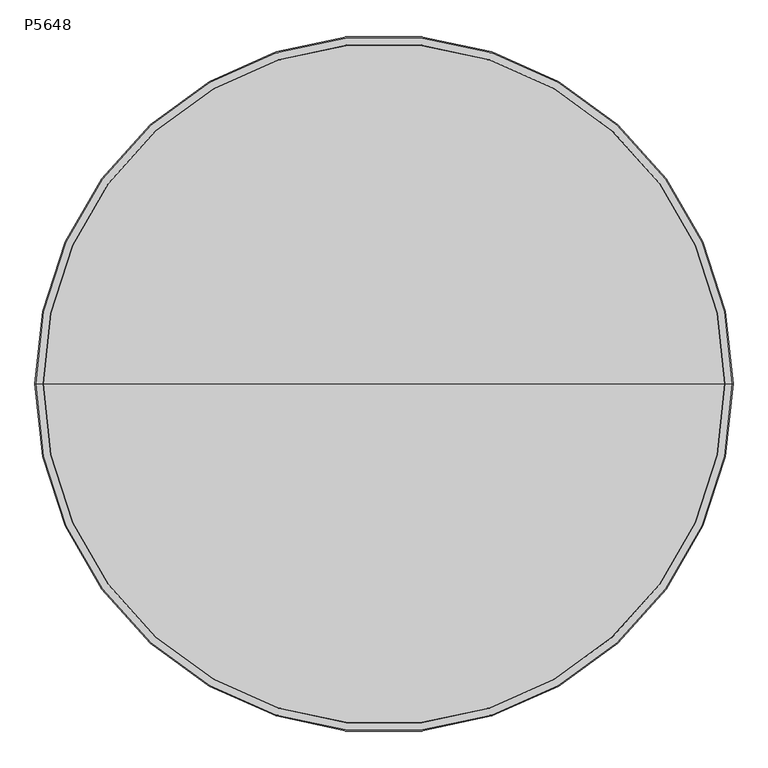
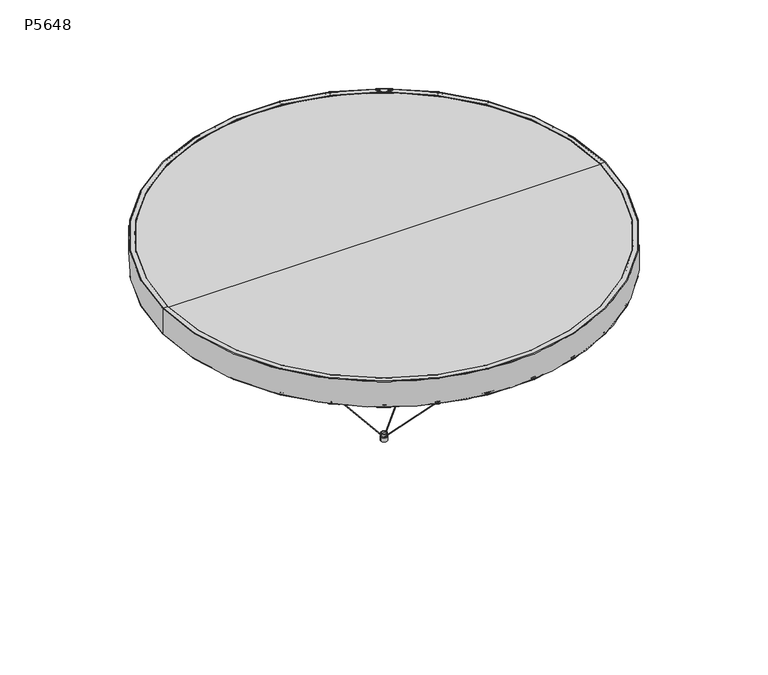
"""IFC4 building model written with IfcOpenShell, lengths in millimetres: light fixture geometry, Impact_Arch_Ltg-waf.r.3 : P5648."""

from ifc_helpers import new_model, si_unit, point, frame, origin, place, context, project, spatial, polyline, circle_curve, ellipse_curve, trimmed, outline, extrude, source, transform, mapped, element, save
from ifc_brep_helpers import plane_surface, cylinder_surface, revolved_surface, advanced_brep


def p5648_e3c1b2aa(model_context):
    return source(origin(), model_context, "Body", "SolidModel", [
        extrude(outline(polyline([(-430.2698441, 245.5711104), (-435.6312875, 248.6402797), (-434.9596024, 249.8136271), (-429.598159, 246.7444577), (-430.2698441, 245.5711104)])), frame((0.0, 0.0, 513.932063), z_axis=(0.0, 0.0, 1.0), x_axis=(1.0, 0.0, 0.0)), (0.0, 0.0, 1.0), 10.7885392),
        advanced_brep(
        [(-427.5104958, 244.7292687, 521.2315743), (-437.4962502, 250.4456345, 521.2315743), (-437.4962502, 250.4456345, 532.6496719), (-427.5104958, 244.7292687, 532.6496719), (-427.9473499, 244.9793467, 520.7282051), (-437.0593961, 250.1955564, 520.7282051), (-432.503373, 247.5874516, 520.7282051), (-432.503373, 247.5874516, 532.6496719)],
        [
            (0, 1, circle_curve(frame((-432.503373, 247.5874516, 521.2315743), z_axis=(0.0, 0.0, 1.0), x_axis=(-0.8678602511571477, 0.49680839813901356, 0.0)), 5.7530889)),
            (1, 2),
            (2, 3, circle_curve(frame((-432.503373, 247.5874516, 532.6496719), z_axis=(0.0, 0.0, -1.0), x_axis=(-0.8678602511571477, 0.49680839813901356, 0.0)), 5.7530889)),
            (3, 0),
            (1, 0, circle_curve(frame((-432.503373, 247.5874516, 521.2315743), z_axis=(0.0, 0.0, 1.0), x_axis=(-0.8678602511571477, 0.49680839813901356, 0.0)), 5.7530889)),
            (3, 2, circle_curve(frame((-432.503373, 247.5874516, 532.6496719), z_axis=(0.0, 0.0, -1.0), x_axis=(-0.8678602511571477, 0.49680839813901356, 0.0)), 5.7530889)),
            (4, 5, circle_curve(frame((-432.503373, 247.5874516, 520.7282051), z_axis=(0.0, 0.0, 1.0), x_axis=(-0.8678602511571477, 0.49680839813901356, 0.0)), 5.2497197)),
            (5, 1, circle_curve(frame((-437.0593961, 250.1955564, 521.2315743), z_axis=(0.49680839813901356, 0.8678602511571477, 0.0), x_axis=(0.8678602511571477, -0.49680839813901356, 0.0)), 0.5033692)),
            (0, 4, circle_curve(frame((-427.9473499, 244.9793467, 521.2315743), z_axis=(0.49680839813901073, 0.8678602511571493, 0.0), x_axis=(-0.8678602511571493, 0.49680839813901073, 0.0)), 0.5033692)),
            (5, 4, circle_curve(frame((-432.503373, 247.5874516, 520.7282051), z_axis=(0.0, 0.0, 1.0), x_axis=(-0.8678602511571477, 0.49680839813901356, 0.0)), 5.2497197)),
            (6, 5),
            (4, 6),
            (2, 7),
            (7, 3),
        ],
        [
            cylinder_surface(frame((-432.503373, 247.5874516, 534.5064644), z_axis=(0.0, 0.0, -1.0), x_axis=(-0.8678602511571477, 0.49680839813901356, 0.0)), 5.7530889),
            revolved_surface(trimmed(ellipse_curve(frame((-437.0593961, 250.1955564, 521.2315743), z_axis=(-0.49680839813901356, -0.8678602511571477, 0.0), x_axis=(0.8678602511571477, -0.49680839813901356, 0.0)), 0.5033692, 0.5033692), [point((-437.4962502, 250.4456345, 521.2315743))], [point((-437.0593961, 250.1955564, 520.7282051))], True, "CARTESIAN"), (-432.503373, 247.5874516, 534.5064644), (0.0, 0.0, -1.0)),
            plane_surface(frame((-432.503373, 247.5874516, 520.7282051), z_axis=(0.0, 0.0, -1.0), x_axis=(-0.8678602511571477, 0.49680839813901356, 0.0))),
            plane_surface(frame((-432.503373, 247.5874516, 532.6496719), z_axis=(0.0, 0.0, 1.0), x_axis=(-0.8678602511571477, 0.49680839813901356, 0.0))),
        ],
        [
            (0, [[1, 2, 3, 4]]),
            (0, [[5, -4, 6, -2]]),
            (1, [[7, 8, -1, 9]]),
            (1, [[10, -9, -5, -8]]),
            (2, [[11, -7, 12]]),
            (2, [[-12, -10, -11]]),
            (3, [[-3, 13, 14]]),
            (3, [[-6, -14, -13]]),
        ],
    ),
        advanced_brep(
        [(-0.4890693, 0.2799687, 14.2374638), (0.4890693, -0.2799687, 15.3555205), (0.0, 0.0, 14.7964922), (-410.67593, 235.0922867, 490.689032), (-409.6978263, 234.5323691, 491.8070488), (-410.1868781, 234.8123279, 491.2480404)],
        [
            (0, 1, circle_curve(frame((0.0, 0.0, 14.7964922), z_axis=(0.6112015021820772, -0.3498835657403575, -0.7099395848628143), x_axis=(0.6161283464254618, -0.35270394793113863, 0.7042625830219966)), 0.7937783)),
            (1, 2),
            (2, 0),
            (1, 0, circle_curve(frame((0.0, 0.0, 14.7964922), z_axis=(0.6112015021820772, -0.3498835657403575, -0.7099395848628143), x_axis=(0.6161283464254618, -0.35270394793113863, 0.7042625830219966)), 0.7937783)),
            (3, 4, circle_curve(frame((-410.1868781, 234.8123279, 491.2480404), z_axis=(0.6112015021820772, -0.3498835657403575, -0.7099395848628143), x_axis=(0.6161283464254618, -0.35270394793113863, 0.7042625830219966)), 0.79375)),
            (4, 1),
            (0, 3),
            (4, 3, circle_curve(frame((-410.1868781, 234.8123279, 491.2480404), z_axis=(0.6112015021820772, -0.3498835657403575, -0.7099395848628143), x_axis=(0.6161283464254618, -0.35270394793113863, 0.7042625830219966)), 0.79375)),
            (5, 4),
            (3, 5),
        ],
        [
            plane_surface(frame((0.0, 0.0, 14.7964922), z_axis=(0.6112015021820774, -0.34988356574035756, -0.7099395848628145), x_axis=(0.6161283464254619, -0.3527039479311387, 0.7042625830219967))),
            cylinder_surface(frame((-383.1067192, 219.3102348, 459.7931491), z_axis=(-0.6112015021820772, 0.3498835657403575, 0.7099395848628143), x_axis=(0.6161283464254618, -0.35270394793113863, 0.7042625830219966)), 0.79375),
            plane_surface(frame((-410.1868781, 234.8123279, 491.2480404), z_axis=(-0.6112015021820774, 0.34988356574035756, 0.7099395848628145), x_axis=(0.6161283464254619, -0.3527039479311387, 0.7042625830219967))),
        ],
        [
            (0, [[1, 2, 3]]),
            (0, [[4, -3, -2]]),
            (1, [[5, 6, -1, 7]]),
            (1, [[8, -7, -4, -6]]),
            (2, [[9, -5, 10]]),
            (2, [[-10, -8, -9]]),
        ],
    ),
        advanced_brep(
        [(-411.2872449, 235.4422351, 489.9902714), (-409.0865114, 234.1824207, 492.5058094), (-410.1868781, 234.8123279, 491.2480404), (-416.1386568, 238.2194359, 495.6254169), (-413.9379233, 236.9596215, 498.1409548), (-415.0382901, 237.5895287, 496.8831858)],
        [
            (0, 1, circle_curve(frame((-410.1868781, 234.8123279, 491.2480404), z_axis=(0.6112015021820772, -0.3498835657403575, -0.7099395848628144), x_axis=(0.6161283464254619, -0.3527039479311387, 0.7042625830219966)), 1.7859375)),
            (1, 2),
            (2, 0),
            (1, 0, circle_curve(frame((-410.1868781, 234.8123279, 491.2480404), z_axis=(0.6112015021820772, -0.3498835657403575, -0.7099395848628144), x_axis=(0.6161283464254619, -0.3527039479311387, 0.7042625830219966)), 1.7859375)),
            (3, 4, circle_curve(frame((-415.0382901, 237.5895287, 496.8831858), z_axis=(0.6112015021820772, -0.3498835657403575, -0.7099395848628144), x_axis=(0.6161283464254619, -0.3527039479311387, 0.7042625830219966)), 1.7859375)),
            (4, 1),
            (0, 3),
            (4, 3, circle_curve(frame((-415.0382901, 237.5895287, 496.8831858), z_axis=(0.6112015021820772, -0.3498835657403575, -0.7099395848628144), x_axis=(0.6161283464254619, -0.3527039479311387, 0.7042625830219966)), 1.7859375)),
            (5, 4),
            (3, 5),
        ],
        [
            plane_surface(frame((-410.1868781, 234.8123279, 491.2480404), z_axis=(0.6112015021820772, -0.3498835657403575, -0.7099395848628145), x_axis=(0.6161283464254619, -0.3527039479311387, 0.7042625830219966))),
            cylinder_surface(frame((-365.7518489, 209.3754034, 439.6346427), z_axis=(-0.6112015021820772, 0.3498835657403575, 0.7099395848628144), x_axis=(0.6161283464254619, -0.3527039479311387, 0.7042625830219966)), 1.7859375),
            plane_surface(frame((-415.0382901, 237.5895287, 496.8831858), z_axis=(-0.6112015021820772, 0.3498835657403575, 0.7099395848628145), x_axis=(0.6161283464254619, -0.3527039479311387, 0.7042625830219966))),
        ],
        [
            (0, [[1, 2, 3]]),
            (0, [[4, -3, -2]]),
            (1, [[5, 6, -1, 7]]),
            (1, [[8, -7, -4, -6]]),
            (2, [[9, -5, 10]]),
            (2, [[-10, -8, -9]]),
        ],
    ),
        advanced_brep(
        [(-418.2171272, 239.4092606, 493.2496311), (-411.8594529, 235.7697968, 500.5167406), (-415.0382901, 237.5895287, 496.8831858), (-435.6822102, 249.4071835, 513.5361547), (-429.3245358, 245.7677197, 520.8032643), (-432.503373, 247.5874516, 517.1697095)],
        [
            (0, 1, circle_curve(frame((-415.0382901, 237.5895287, 496.8831858), z_axis=(0.6112015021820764, -0.349883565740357, -0.7099395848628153), x_axis=(0.6161283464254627, -0.35270394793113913, 0.7042625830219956)), 5.159375)),
            (1, 2),
            (2, 0),
            (1, 0, circle_curve(frame((-415.0382901, 237.5895287, 496.8831858), z_axis=(0.6112015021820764, -0.349883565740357, -0.7099395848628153), x_axis=(0.6161283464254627, -0.35270394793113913, 0.7042625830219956)), 5.159375)),
            (3, 4, circle_curve(frame((-432.503373, 247.5874516, 517.1697095), z_axis=(0.6112015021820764, -0.349883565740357, -0.7099395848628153), x_axis=(0.6161283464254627, -0.35270394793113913, 0.7042625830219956)), 5.159375)),
            (4, 1),
            (0, 3),
            (4, 3, circle_curve(frame((-432.503373, 247.5874516, 517.1697095), z_axis=(0.6112015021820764, -0.349883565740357, -0.7099395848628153), x_axis=(0.6161283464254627, -0.35270394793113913, 0.7042625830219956)), 5.159375)),
            (5, 4),
            (3, 5),
        ],
        [
            plane_surface(frame((-415.0382901, 237.5895287, 496.8831858), z_axis=(0.6112015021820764, -0.349883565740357, -0.7099395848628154), x_axis=(0.6161283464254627, -0.35270394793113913, 0.7042625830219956))),
            cylinder_surface(frame((-402.2645397, 230.2771688, 482.0458678), z_axis=(-0.6112015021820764, 0.349883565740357, 0.7099395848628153), x_axis=(0.6161283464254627, -0.35270394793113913, 0.7042625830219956)), 5.159375),
            plane_surface(frame((-432.503373, 247.5874516, 517.1697095), z_axis=(-0.6112015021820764, 0.349883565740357, 0.7099395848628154), x_axis=(0.6161283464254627, -0.35270394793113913, 0.7042625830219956))),
        ],
        [
            (0, [[1, 2, 3]]),
            (0, [[4, -3, -2]]),
            (1, [[5, 6, -1, 7]]),
            (1, [[8, -7, -4, -6]]),
            (2, [[9, -5, 10]]),
            (2, [[-10, -8, -9]]),
        ],
    ),
        extrude(outline(polyline([(426.8830775, 251.412305), (432.2102977, 254.5404995), (432.8949004, 253.3746418), (427.5676802, 250.2464474), (426.8830775, 251.412305)])), frame((0.0, 0.0, 513.932063), z_axis=(0.0, 0.0, 1.0), x_axis=(1.0, 0.0, 0.0)), (0.0, 0.0, 1.0), 10.7885392),
        advanced_brep(
        [(424.7816092, 249.4358103, 521.2315743), (434.7036225, 255.2621111, 521.2315743), (434.7036225, 255.2621111, 532.6496719), (424.7816092, 249.4358103, 532.6496719), (425.2156748, 249.6906977, 520.7282051), (434.2695569, 255.0072236, 520.7282051), (429.7426158, 252.3489607, 520.7282051), (429.7426158, 252.3489607, 532.6496719)],
        [
            (0, 1, circle_curve(frame((429.7426158, 252.3489607, 521.2315743), z_axis=(0.0, 0.0, 1.0), x_axis=(0.862320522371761, 0.5063628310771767, 0.0)), 5.7530889)),
            (1, 2),
            (2, 3, circle_curve(frame((429.7426158, 252.3489607, 532.6496719), z_axis=(0.0, 0.0, -1.0), x_axis=(0.862320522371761, 0.5063628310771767, 0.0)), 5.7530889)),
            (3, 0),
            (1, 0, circle_curve(frame((429.7426158, 252.3489607, 521.2315743), z_axis=(0.0, 0.0, 1.0), x_axis=(0.862320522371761, 0.5063628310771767, 0.0)), 5.7530889)),
            (3, 2, circle_curve(frame((429.7426158, 252.3489607, 532.6496719), z_axis=(0.0, 0.0, -1.0), x_axis=(0.862320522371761, 0.5063628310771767, 0.0)), 5.7530889)),
            (4, 5, circle_curve(frame((429.7426158, 252.3489607, 520.7282051), z_axis=(0.0, 0.0, 1.0), x_axis=(0.862320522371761, 0.5063628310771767, 0.0)), 5.2497197)),
            (5, 1, circle_curve(frame((434.2695569, 255.0072236, 521.2315743), z_axis=(0.5063628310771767, -0.862320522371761, 0.0), x_axis=(-0.862320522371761, -0.5063628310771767, 0.0)), 0.5033692)),
            (0, 4, circle_curve(frame((425.2156748, 249.6906977, 521.2315743), z_axis=(0.5063628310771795, -0.8623205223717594, 0.0), x_axis=(0.8623205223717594, 0.5063628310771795, 0.0)), 0.5033692)),
            (5, 4, circle_curve(frame((429.7426158, 252.3489607, 520.7282051), z_axis=(0.0, 0.0, 1.0), x_axis=(0.862320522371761, 0.5063628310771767, 0.0)), 5.2497197)),
            (6, 5),
            (4, 6),
            (2, 7),
            (7, 3),
        ],
        [
            cylinder_surface(frame((429.7426158, 252.3489607, 534.5064644), z_axis=(0.0, 0.0, -1.0), x_axis=(0.862320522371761, 0.5063628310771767, 0.0)), 5.7530889),
            revolved_surface(trimmed(ellipse_curve(frame((434.2695569, 255.0072236, 521.2315743), z_axis=(-0.5063628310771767, 0.862320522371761, 0.0), x_axis=(-0.862320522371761, -0.5063628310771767, 0.0)), 0.5033692, 0.5033692), [point((434.7036225, 255.2621111, 521.2315743))], [point((434.2695569, 255.0072236, 520.7282051))], True, "CARTESIAN"), (429.7426158, 252.3489607, 534.5064644), (0.0, 0.0, -1.0)),
            plane_surface(frame((429.7426158, 252.3489607, 520.7282051), z_axis=(0.0, 0.0, -1.0000000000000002), x_axis=(0.862320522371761, 0.5063628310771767, 0.0))),
            plane_surface(frame((429.7426158, 252.3489607, 532.6496719), z_axis=(0.0, 0.0, 1.0000000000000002), x_axis=(0.862320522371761, 0.5063628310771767, 0.0))),
        ],
        [
            (0, [[1, 2, 3, 4]]),
            (0, [[5, -4, 6, -2]]),
            (1, [[7, 8, -1, 9]]),
            (1, [[10, -9, -5, -8]]),
            (2, [[11, -7, 12]]),
            (2, [[-12, -10, -11]]),
            (3, [[-3, 13, 14]]),
            (3, [[-6, -14, -13]]),
        ],
    ),
        advanced_brep(
        [(0.4859475, 0.285353, 14.2374638), (-0.4859475, -0.285353, 15.3555205), (0.0, 0.0, 14.7964922), (408.0545019, 239.6134934, 490.689032), (407.0826416, 239.0428078, 491.8070488), (407.5685717, 239.3281506, 491.2480404)],
        [
            (0, 1, circle_curve(frame((0.0, 0.0, 14.7964922), z_axis=(-0.607300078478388, -0.3566123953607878, -0.7099395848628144), x_axis=(-0.6121954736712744, -0.35948701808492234, 0.7042625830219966)), 0.7937783)),
            (1, 2),
            (2, 0),
            (1, 0, circle_curve(frame((0.0, 0.0, 14.7964922), z_axis=(-0.607300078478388, -0.3566123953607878, -0.7099395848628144), x_axis=(-0.6121954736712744, -0.35948701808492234, 0.7042625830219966)), 0.7937783)),
            (3, 4, circle_curve(frame((407.5685717, 239.3281506, 491.2480404), z_axis=(-0.607300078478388, -0.3566123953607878, -0.7099395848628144), x_axis=(-0.6121954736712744, -0.35948701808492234, 0.7042625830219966)), 0.79375)),
            (4, 1),
            (0, 3),
            (4, 3, circle_curve(frame((407.5685717, 239.3281506, 491.2480404), z_axis=(-0.607300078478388, -0.3566123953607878, -0.7099395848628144), x_axis=(-0.6121954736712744, -0.35948701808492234, 0.7042625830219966)), 0.79375)),
            (5, 4),
            (3, 5),
        ],
        [
            plane_surface(frame((0.0, 0.0, 14.7964922), z_axis=(-0.607300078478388, -0.3566123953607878, -0.7099395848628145), x_axis=(-0.6121954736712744, -0.3594870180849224, 0.7042625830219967))),
            cylinder_surface(frame((380.6612709, 223.5279271, 459.7931491), z_axis=(0.6073000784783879, 0.35661239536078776, 0.7099395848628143), x_axis=(-0.6121954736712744, -0.35948701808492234, 0.7042625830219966)), 0.79375),
            plane_surface(frame((407.5685717, 239.3281506, 491.2480404), z_axis=(0.607300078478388, 0.3566123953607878, 0.7099395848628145), x_axis=(-0.6121954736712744, -0.3594870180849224, 0.7042625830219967))),
        ],
        [
            (0, [[1, 2, 3]]),
            (0, [[4, -3, -2]]),
            (1, [[5, 6, -1, 7]]),
            (1, [[8, -7, -4, -6]]),
            (2, [[9, -5, 10]]),
            (2, [[-10, -8, -9]]),
        ],
    ),
        advanced_brep(
        [(408.6619146, 239.9701719, 489.9902714), (406.4752289, 238.6861292, 492.5058094), (407.5685717, 239.3281506, 491.2480404), (413.482359, 242.8007828, 495.6254169), (411.2956732, 241.5167401, 498.1409548), (412.3890161, 242.1587615, 496.8831858)],
        [
            (0, 1, circle_curve(frame((407.5685717, 239.3281506, 491.2480404), z_axis=(-0.6073000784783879, -0.35661239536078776, -0.7099395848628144), x_axis=(-0.6121954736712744, -0.3594870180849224, 0.7042625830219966)), 1.7859375)),
            (1, 2),
            (2, 0),
            (1, 0, circle_curve(frame((407.5685717, 239.3281506, 491.2480404), z_axis=(-0.6073000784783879, -0.35661239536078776, -0.7099395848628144), x_axis=(-0.6121954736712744, -0.3594870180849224, 0.7042625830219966)), 1.7859375)),
            (3, 4, circle_curve(frame((412.3890161, 242.1587615, 496.8831858), z_axis=(-0.6073000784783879, -0.35661239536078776, -0.7099395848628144), x_axis=(-0.6121954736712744, -0.3594870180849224, 0.7042625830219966)), 1.7859375)),
            (4, 1),
            (0, 3),
            (4, 3, circle_curve(frame((412.3890161, 242.1587615, 496.8831858), z_axis=(-0.6073000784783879, -0.35661239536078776, -0.7099395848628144), x_axis=(-0.6121954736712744, -0.3594870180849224, 0.7042625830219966)), 1.7859375)),
            (5, 4),
            (3, 5),
        ],
        [
            plane_surface(frame((407.5685717, 239.3281506, 491.2480404), z_axis=(-0.607300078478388, -0.3566123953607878, -0.7099395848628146), x_axis=(-0.6121954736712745, -0.35948701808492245, 0.7042625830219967))),
            cylinder_surface(frame((363.4171803, 213.4020327, 439.6346427), z_axis=(0.6073000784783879, 0.35661239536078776, 0.7099395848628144), x_axis=(-0.6121954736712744, -0.3594870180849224, 0.7042625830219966)), 1.7859375),
            plane_surface(frame((412.3890161, 242.1587615, 496.8831858), z_axis=(0.607300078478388, 0.3566123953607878, 0.7099395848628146), x_axis=(-0.6121954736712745, -0.35948701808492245, 0.7042625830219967))),
        ],
        [
            (0, [[1, 2, 3]]),
            (0, [[4, -3, -2]]),
            (1, [[5, 6, -1, 7]]),
            (1, [[8, -7, -4, -6]]),
            (2, [[9, -5, 10]]),
            (2, [[-10, -8, -9]]),
        ],
    ),
        advanced_brep(
        [(415.5475621, 244.0134898, 493.2496311), (409.2304701, 240.3040331, 500.5167406), (412.3890161, 242.1587615, 496.8831858), (432.9011619, 254.203689, 513.5361547), (426.5840698, 250.4942323, 520.8032643), (429.7426158, 252.3489607, 517.1697095)],
        [
            (0, 1, circle_curve(frame((412.3890161, 242.1587615, 496.8831858), z_axis=(-0.607300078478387, -0.35661239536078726, -0.7099395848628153), x_axis=(-0.6121954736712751, -0.3594870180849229, 0.7042625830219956)), 5.159375)),
            (1, 2),
            (2, 0),
            (1, 0, circle_curve(frame((412.3890161, 242.1587615, 496.8831858), z_axis=(-0.607300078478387, -0.35661239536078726, -0.7099395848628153), x_axis=(-0.6121954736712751, -0.3594870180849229, 0.7042625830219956)), 5.159375)),
            (3, 4, circle_curve(frame((429.7426158, 252.3489607, 517.1697095), z_axis=(-0.607300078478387, -0.35661239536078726, -0.7099395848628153), x_axis=(-0.6121954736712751, -0.3594870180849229, 0.7042625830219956)), 5.159375)),
            (4, 1),
            (0, 3),
            (4, 3, circle_curve(frame((429.7426158, 252.3489607, 517.1697095), z_axis=(-0.607300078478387, -0.35661239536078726, -0.7099395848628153), x_axis=(-0.6121954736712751, -0.3594870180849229, 0.7042625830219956)), 5.159375)),
            (5, 4),
            (3, 5),
        ],
        [
            plane_surface(frame((412.3890161, 242.1587615, 496.8831858), z_axis=(-0.6073000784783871, -0.3566123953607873, -0.7099395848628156), x_axis=(-0.6121954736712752, -0.35948701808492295, 0.7042625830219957))),
            cylinder_surface(frame((399.6968032, 234.7057731, 482.0458678), z_axis=(0.607300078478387, 0.35661239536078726, 0.7099395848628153), x_axis=(-0.6121954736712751, -0.3594870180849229, 0.7042625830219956)), 5.159375),
            plane_surface(frame((429.7426158, 252.3489607, 517.1697095), z_axis=(0.6073000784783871, 0.3566123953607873, 0.7099395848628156), x_axis=(-0.6121954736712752, -0.35948701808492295, 0.7042625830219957))),
        ],
        [
            (0, [[1, 2, 3]]),
            (0, [[4, -3, -2]]),
            (1, [[5, 6, -1, 7]]),
            (1, [[8, -7, -4, -6]]),
            (2, [[9, -5, 10]]),
            (2, [[-10, -8, -9]]),
        ],
    ),
        extrude(outline(polyline([(0.6402665, -495.4158849), (0.6402665, -501.5936576), (-0.7117338, -501.5936576), (-0.7117338, -495.4158849), (0.6402665, -495.4158849)])), frame((0.0, 0.0, 513.932063), z_axis=(0.0, 0.0, 1.0), x_axis=(1.0, 0.0, 0.0)), (0.0, 0.0, 1.0), 10.7885392),
        advanced_brep(
        [(0.0, -492.6029222, 521.2315743), (0.0, -504.1091, 521.2315743), (0.0, -504.1091, 532.6496719), (0.0, -492.6029222, 532.6496719), (0.0, -493.1062914, 520.7282051), (0.0, -503.6057309, 520.7282051), (0.0, -498.3560111, 520.7282051), (0.0, -498.3560111, 532.6496719)],
        [
            (0, 1, circle_curve(frame((0.0, -498.3560111, 521.2315743), z_axis=(0.0, 0.0, 1.0), x_axis=(0.0, -1.0, 0.0)), 5.7530889)),
            (1, 2),
            (2, 3, circle_curve(frame((0.0, -498.3560111, 532.6496719), z_axis=(0.0, 0.0, -1.0), x_axis=(0.0, -1.0, 0.0)), 5.7530889)),
            (3, 0),
            (1, 0, circle_curve(frame((0.0, -498.3560111, 521.2315743), z_axis=(0.0, 0.0, 1.0), x_axis=(0.0, -1.0, 0.0)), 5.7530889)),
            (3, 2, circle_curve(frame((0.0, -498.3560111, 532.6496719), z_axis=(0.0, 0.0, -1.0), x_axis=(0.0, -1.0, 0.0)), 5.7530889)),
            (4, 5, circle_curve(frame((0.0, -498.3560111, 520.7282051), z_axis=(0.0, 0.0, 1.0), x_axis=(0.0, -1.0, 0.0)), 5.2497197)),
            (5, 1, circle_curve(frame((0.0, -503.6057309, 521.2315743), z_axis=(-1.0, 0.0, 0.0), x_axis=(0.0, 1.0, 0.0)), 0.5033692)),
            (0, 4, circle_curve(frame((0.0, -493.1062914, 521.2315743), z_axis=(-1.0, 0.0, 0.0), x_axis=(0.0, -1.0, 0.0)), 0.5033692)),
            (5, 4, circle_curve(frame((0.0, -498.3560111, 520.7282051), z_axis=(0.0, 0.0, 1.0), x_axis=(0.0, -1.0, 0.0)), 5.2497197)),
            (6, 5),
            (4, 6),
            (2, 7),
            (7, 3),
        ],
        [
            cylinder_surface(frame((0.0, -498.3560111, 534.5064644), z_axis=(0.0, 0.0, -1.0), x_axis=(0.0, -1.0, 0.0)), 5.7530889),
            revolved_surface(trimmed(ellipse_curve(frame((0.0, -503.6057309, 521.2315743), z_axis=(1.0, 0.0, 0.0), x_axis=(0.0, 1.0, 0.0)), 0.5033692, 0.5033692), [point((0.0, -504.1091, 521.2315743))], [point((0.0, -503.6057309, 520.7282051))], True, "CARTESIAN"), (0.0, -498.3560111, 534.5064644), (0.0, 0.0, -1.0)),
            plane_surface(frame((0.0, -498.3560111, 520.7282051), z_axis=(0.0, 0.0, -1.0), x_axis=(0.0, -1.0, 0.0))),
            plane_surface(frame((0.0, -498.3560111, 532.6496719), z_axis=(0.0, 0.0, 1.0), x_axis=(0.0, -1.0, 0.0))),
        ],
        [
            (0, [[1, 2, 3, 4]]),
            (0, [[5, -4, 6, -2]]),
            (1, [[7, 8, -1, 9]]),
            (1, [[10, -9, -5, -8]]),
            (2, [[11, -7, 12]]),
            (2, [[-12, -10, -11]]),
            (3, [[-3, 13, 14]]),
            (3, [[-6, -14, -13]]),
        ],
    ),
        advanced_brep(
        [(0.0, -0.5635346, 14.2374638), (0.0, 0.5635346, 15.3555205), (0.0, 0.0, 14.7964922), (0.0, -473.2051381, 490.689032), (0.0, -472.078109, 491.8070488), (0.0, -472.6416236, 491.2480404)],
        [
            (0, 1, circle_curve(frame((0.0, 0.0, 14.7964922), z_axis=(0.0, 0.7042625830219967, -0.7099395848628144), x_axis=(0.0, 0.7099395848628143, 0.7042625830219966)), 0.7937783)),
            (1, 2),
            (2, 0),
            (1, 0, circle_curve(frame((0.0, 0.0, 14.7964922), z_axis=(0.0, 0.7042625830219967, -0.7099395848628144), x_axis=(0.0, 0.7099395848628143, 0.7042625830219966)), 0.7937783)),
            (3, 4, circle_curve(frame((0.0, -472.6416236, 491.2480404), z_axis=(0.0, 0.7042625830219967, -0.7099395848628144), x_axis=(0.0, 0.7099395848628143, 0.7042625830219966)), 0.79375)),
            (4, 1),
            (0, 3),
            (4, 3, circle_curve(frame((0.0, -472.6416236, 491.2480404), z_axis=(0.0, 0.7042625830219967, -0.7099395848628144), x_axis=(0.0, 0.7099395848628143, 0.7042625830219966)), 0.79375)),
            (5, 4),
            (3, 5),
        ],
        [
            plane_surface(frame((0.0, 0.0, 14.7964922), z_axis=(0.0, 0.7042625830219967, -0.7099395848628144), x_axis=(0.0, 0.7099395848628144, 0.7042625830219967))),
            cylinder_surface(frame((0.0, -441.43826, 459.7931491), z_axis=(0.0, -0.7042625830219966, 0.7099395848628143), x_axis=(0.0, 0.7099395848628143, 0.7042625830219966)), 0.79375),
            plane_surface(frame((0.0, -472.6416236, 491.2480404), z_axis=(0.0, -0.7042625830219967, 0.7099395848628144), x_axis=(0.0, 0.7099395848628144, 0.7042625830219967))),
        ],
        [
            (0, [[1, 2, 3]]),
            (0, [[4, -3, -2]]),
            (1, [[5, 6, -1, 7]]),
            (1, [[8, -7, -4, -6]]),
            (2, [[9, -5, 10]]),
            (2, [[-10, -8, -9]]),
        ],
    ),
        advanced_brep(
        [(0.0, -473.9095313, 489.9902714), (0.0, -471.3737158, 492.5058094), (0.0, -472.6416236, 491.2480404), (0.0, -479.4996155, 495.6254169), (0.0, -476.9638001, 498.1409548), (0.0, -478.2317078, 496.8831858)],
        [
            (0, 1, circle_curve(frame((0.0, -472.6416236, 491.2480404), z_axis=(0.0, 0.7042625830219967, -0.7099395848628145), x_axis=(0.0, 0.7099395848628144, 0.7042625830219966)), 1.7859375)),
            (1, 2),
            (2, 0),
            (1, 0, circle_curve(frame((0.0, -472.6416236, 491.2480404), z_axis=(0.0, 0.7042625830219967, -0.7099395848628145), x_axis=(0.0, 0.7099395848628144, 0.7042625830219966)), 1.7859375)),
            (3, 4, circle_curve(frame((0.0, -478.2317078, 496.8831858), z_axis=(0.0, 0.7042625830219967, -0.7099395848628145), x_axis=(0.0, 0.7099395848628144, 0.7042625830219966)), 1.7859375)),
            (4, 1),
            (0, 3),
            (4, 3, circle_curve(frame((0.0, -478.2317078, 496.8831858), z_axis=(0.0, 0.7042625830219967, -0.7099395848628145), x_axis=(0.0, 0.7099395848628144, 0.7042625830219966)), 1.7859375)),
            (5, 4),
            (3, 5),
        ],
        [
            plane_surface(frame((0.0, -472.6416236, 491.2480404), z_axis=(0.0, 0.7042625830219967, -0.7099395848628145), x_axis=(0.0, 0.7099395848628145, 0.7042625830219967))),
            cylinder_surface(frame((0.0, -421.4409502, 439.6346427), z_axis=(0.0, -0.7042625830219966, 0.7099395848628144), x_axis=(0.0, 0.7099395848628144, 0.7042625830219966)), 1.7859375),
            plane_surface(frame((0.0, -478.2317078, 496.8831858), z_axis=(0.0, -0.7042625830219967, 0.7099395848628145), x_axis=(0.0, 0.7099395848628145, 0.7042625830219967))),
        ],
        [
            (0, [[1, 2, 3]]),
            (0, [[4, -3, -2]]),
            (1, [[5, 6, -1, 7]]),
            (1, [[8, -7, -4, -6]]),
            (2, [[9, -5, 10]]),
            (2, [[-10, -8, -9]]),
        ],
    ),
        advanced_brep(
        [(0.0, -481.8945524, 493.2496311), (0.0, -474.5688633, 500.5167406), (0.0, -478.2317078, 496.8831858), (0.0, -502.0188557, 513.5361547), (0.0, -494.6931666, 520.8032643), (0.0, -498.3560111, 517.1697095)],
        [
            (0, 1, circle_curve(frame((0.0, -478.2317078, 496.8831858), z_axis=(0.0, 0.7042625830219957, -0.7099395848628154), x_axis=(0.0, 0.7099395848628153, 0.7042625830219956)), 5.159375)),
            (1, 2),
            (2, 0),
            (1, 0, circle_curve(frame((0.0, -478.2317078, 496.8831858), z_axis=(0.0, 0.7042625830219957, -0.7099395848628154), x_axis=(0.0, 0.7099395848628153, 0.7042625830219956)), 5.159375)),
            (3, 4, circle_curve(frame((0.0, -498.3560111, 517.1697095), z_axis=(0.0, 0.7042625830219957, -0.7099395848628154), x_axis=(0.0, 0.7099395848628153, 0.7042625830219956)), 5.159375)),
            (4, 1),
            (0, 3),
            (4, 3, circle_curve(frame((0.0, -498.3560111, 517.1697095), z_axis=(0.0, 0.7042625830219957, -0.7099395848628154), x_axis=(0.0, 0.7099395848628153, 0.7042625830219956)), 5.159375)),
            (5, 4),
            (3, 5),
        ],
        [
            plane_surface(frame((0.0, -478.2317078, 496.8831858), z_axis=(0.0, 0.7042625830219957, -0.7099395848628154), x_axis=(0.0, 0.7099395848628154, 0.7042625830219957))),
            cylinder_surface(frame((0.0, -463.5130358, 482.0458678), z_axis=(0.0, -0.7042625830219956, 0.7099395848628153), x_axis=(0.0, 0.7099395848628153, 0.7042625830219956)), 5.159375),
            plane_surface(frame((0.0, -498.3560111, 517.1697095), z_axis=(0.0, -0.7042625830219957, 0.7099395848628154), x_axis=(0.0, 0.7099395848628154, 0.7042625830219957))),
        ],
        [
            (0, [[1, 2, 3]]),
            (0, [[4, -3, -2]]),
            (1, [[5, 6, -1, 7]]),
            (1, [[8, -7, -4, -6]]),
            (2, [[9, -5, 10]]),
            (2, [[-10, -8, -9]]),
        ],
    ),
        advanced_brep(
        [(-607.0242615, 0.0, 534.162), (607.0242615, 0.0, 534.162), (607.0242615, 0.0, 532.0538), (-607.0242615, 0.0, 532.0538), (0.0, 0.0, 532.0538), (0.0, 0.0, 534.162)],
        [
            (0, 1, circle_curve(frame((0.0, 0.0, 534.162), z_axis=(0.0, 0.0, -1.0), x_axis=(1.0, 0.0, 0.0)), 607.0242615)),
            (1, 2),
            (2, 3, circle_curve(frame((0.0, 0.0, 532.0538), z_axis=(0.0, 0.0, 1.0), x_axis=(1.0, 0.0, 0.0)), 607.0242615)),
            (3, 0),
            (1, 0, circle_curve(frame((0.0, 0.0, 534.162), z_axis=(0.0, 0.0, -1.0), x_axis=(1.0, 0.0, 0.0)), 607.0242615)),
            (3, 2, circle_curve(frame((0.0, 0.0, 532.0538), z_axis=(0.0, 0.0, 1.0), x_axis=(1.0, 0.0, 0.0)), 607.0242615)),
            (2, 4),
            (4, 3),
            (5, 1),
            (0, 5),
        ],
        [
            cylinder_surface(frame((0.0, 0.0, 535.2788161), z_axis=(0.0, 0.0, 1.0), x_axis=(1.0, 0.0, 0.0)), 607.0242615),
            plane_surface(frame((0.0, 0.0, 532.0538), z_axis=(0.0, 0.0, -1.0), x_axis=(1.0, 0.0, 0.0))),
            plane_surface(frame((0.0, 0.0, 534.162), z_axis=(0.0, 0.0, 1.0), x_axis=(1.0, 0.0, 0.0))),
        ],
        [
            (0, [[1, 2, 3, 4]]),
            (0, [[5, -4, 6, -2]]),
            (1, [[-3, 7, 8]]),
            (1, [[-6, -8, -7]]),
            (2, [[9, -1, 10]]),
            (2, [[-10, -5, -9]]),
        ],
    ),
        advanced_brep(
        [(-597.096004, 0.0, 601.726), (597.096004, 0.0, 601.726), (597.096004, 0.0, 598.7288), (-597.096004, 0.0, 598.7288), (0.0, 0.0, 601.726), (0.0, 0.0, 598.7288)],
        [
            (0, 1, circle_curve(frame((0.0, 0.0, 601.726), z_axis=(0.0, 0.0, -1.0), x_axis=(1.0, 0.0, 0.0)), 597.096004)),
            (1, 2),
            (2, 3, circle_curve(frame((0.0, 0.0, 598.7288), z_axis=(0.0, 0.0, 1.0), x_axis=(1.0, 0.0, 0.0)), 597.096004)),
            (3, 0),
            (1, 0, circle_curve(frame((0.0, 0.0, 601.726), z_axis=(0.0, 0.0, -1.0), x_axis=(1.0, 0.0, 0.0)), 597.096004)),
            (3, 2, circle_curve(frame((0.0, 0.0, 598.7288), z_axis=(0.0, 0.0, 1.0), x_axis=(1.0, 0.0, 0.0)), 597.096004)),
            (4, 1),
            (0, 4),
            (2, 5),
            (5, 3),
        ],
        [
            cylinder_surface(frame((0.0, 0.0, 611.1870462), z_axis=(0.0, 0.0, 1.0), x_axis=(1.0, 0.0, 0.0)), 597.096004),
            plane_surface(frame((0.0, 0.0, 601.726), z_axis=(0.0, 0.0, 1.0), x_axis=(1.0, 0.0, 0.0))),
            plane_surface(frame((0.0, 0.0, 598.7288), z_axis=(0.0, 0.0, -1.0), x_axis=(1.0, 0.0, 0.0))),
        ],
        [
            (0, [[1, 2, 3, 4]]),
            (0, [[5, -4, 6, -2]]),
            (1, [[7, -1, 8]]),
            (1, [[-8, -5, -7]]),
            (2, [[-3, 9, 10]]),
            (2, [[-6, -10, -9]]),
        ],
    ),
        advanced_brep(
        [(-303.1922196, 0.0, 531.5323751), (303.1922196, 0.0, 531.5323751), (304.8459682, 0.0, 532.0538), (-304.8459682, 0.0, 532.0538), (-259.7848362, 0.0, 501.1381979), (259.7848362, 0.0, 501.1381979), (-258.2662831, 0.0, 500.6594), (258.2662831, 0.0, 500.6594), (0.0, 0.0, 500.6594), (-258.7261841, 0.0, 499.0338), (258.7261841, 0.0, 499.0338), (0.0, 0.0, 499.0338), (-260.3803499, 0.0, 499.5553565), (260.3803499, 0.0, 499.5553565), (-304.0154931, 0.0, 530.1090127), (304.0154931, 0.0, 530.1090127), (-305.0278259, 0.0, 530.4282), (305.0278259, 0.0, 530.4282), (-317.5, 0.0, 530.4282), (317.5, 0.0, 530.4282), (-317.5, 0.0, 532.0538), (317.5, 0.0, 532.0538)],
        [
            (0, 1, circle_curve(frame((0.0, 0.0, 531.5323751), z_axis=(0.0, 0.0, -1.0), x_axis=(1.0, 0.0, 0.0)), 303.1922196)),
            (1, 2, circle_curve(frame((304.8459682, 0.0, 529.1705773), z_axis=(0.0, 1.0, 0.0), x_axis=(1.0, 0.0, 0.0)), 2.8832227)),
            (2, 3, circle_curve(frame((0.0, 0.0, 532.0538), z_axis=(0.0, 0.0, 1.0), x_axis=(1.0, 0.0, 0.0)), 304.8459682)),
            (3, 0, circle_curve(frame((-304.8459682, 0.0, 529.1705773), z_axis=(0.0, 1.0, 0.0), x_axis=(-1.0, 0.0, 0.0)), 2.8832227)),
            (1, 0, circle_curve(frame((0.0, 0.0, 531.5323751), z_axis=(0.0, 0.0, -1.0), x_axis=(1.0, 0.0, 0.0)), 303.1922196)),
            (3, 2, circle_curve(frame((0.0, 0.0, 532.0538), z_axis=(0.0, 0.0, 1.0), x_axis=(1.0, 0.0, 0.0)), 304.8459682)),
            (4, 5, circle_curve(frame((0.0, 0.0, 501.1381979), z_axis=(0.0, 0.0, -1.0), x_axis=(1.0, 0.0, 0.0)), 259.7848362)),
            (5, 1),
            (0, 4),
            (5, 4, circle_curve(frame((0.0, 0.0, 501.1381979), z_axis=(0.0, 0.0, -1.0), x_axis=(1.0, 0.0, 0.0)), 259.7848362)),
            (6, 7, circle_curve(frame((0.0, 0.0, 500.6594), z_axis=(0.0, 0.0, -1.0), x_axis=(1.0, 0.0, 0.0)), 258.2662831)),
            (7, 5, circle_curve(frame((258.2662831, 0.0, 503.3069165), z_axis=(0.0, -1.0, 0.0), x_axis=(1.0, 0.0, 0.0)), 2.6475165)),
            (4, 6, circle_curve(frame((-258.2662831, 0.0, 503.3069165), z_axis=(0.0, -1.0, 0.0), x_axis=(-1.0, 0.0, 0.0)), 2.6475165)),
            (7, 6, circle_curve(frame((0.0, 0.0, 500.6594), z_axis=(0.0, 0.0, -1.0), x_axis=(1.0, 0.0, 0.0)), 258.2662831)),
            (8, 7),
            (6, 8),
            (9, 10, circle_curve(frame((0.0, 0.0, 499.0338), z_axis=(0.0, 0.0, -1.0), x_axis=(1.0, 0.0, 0.0)), 258.7261841)),
            (10, 11),
            (11, 9),
            (10, 9, circle_curve(frame((0.0, 0.0, 499.0338), z_axis=(0.0, 0.0, -1.0), x_axis=(1.0, 0.0, 0.0)), 258.7261841)),
            (12, 13, circle_curve(frame((0.0, 0.0, 499.5553565), z_axis=(0.0, 0.0, -1.0), x_axis=(1.0, 0.0, 0.0)), 260.3803499)),
            (13, 10, circle_curve(frame((258.7261841, 0.0, 501.91775), z_axis=(0.0, 1.0, 0.0), x_axis=(1.0, 0.0, 0.0)), 2.88395)),
            (9, 12, circle_curve(frame((-258.7261841, 0.0, 501.91775), z_axis=(0.0, 1.0, 0.0), x_axis=(-1.0, 0.0, 0.0)), 2.88395)),
            (13, 12, circle_curve(frame((0.0, 0.0, 499.5553565), z_axis=(0.0, 0.0, -1.0), x_axis=(1.0, 0.0, 0.0)), 260.3803499)),
            (14, 15, circle_curve(frame((0.0, 0.0, 530.1090127), z_axis=(0.0, 0.0, -1.0), x_axis=(1.0, 0.0, 0.0)), 304.0154931)),
            (15, 13),
            (12, 14),
            (15, 14, circle_curve(frame((0.0, 0.0, 530.1090127), z_axis=(0.0, 0.0, -1.0), x_axis=(1.0, 0.0, 0.0)), 304.0154931)),
            (16, 17, circle_curve(frame((0.0, 0.0, 530.4282), z_axis=(0.0, 0.0, -1.0), x_axis=(1.0, 0.0, 0.0)), 305.0278259)),
            (17, 15, circle_curve(frame((305.0278259, 0.0, 528.6632517), z_axis=(0.0, -1.0, 0.0), x_axis=(1.0, 0.0, 0.0)), 1.7649483)),
            (14, 16, circle_curve(frame((-305.0278259, 0.0, 528.6632517), z_axis=(0.0, -1.0, 0.0), x_axis=(-1.0, 0.0, 0.0)), 1.7649483)),
            (17, 16, circle_curve(frame((0.0, 0.0, 530.4282), z_axis=(0.0, 0.0, -1.0), x_axis=(1.0, 0.0, 0.0)), 305.0278259)),
            (18, 19, circle_curve(frame((0.0, 0.0, 530.4282), z_axis=(0.0, 0.0, -1.0), x_axis=(1.0, 0.0, 0.0)), 317.5)),
            (19, 17),
            (16, 18),
            (19, 18, circle_curve(frame((0.0, 0.0, 530.4282), z_axis=(0.0, 0.0, -1.0), x_axis=(1.0, 0.0, 0.0)), 317.5)),
            (20, 21, circle_curve(frame((0.0, 0.0, 532.0538), z_axis=(0.0, 0.0, -1.0), x_axis=(1.0, 0.0, 0.0)), 317.5)),
            (21, 19),
            (18, 20),
            (21, 20, circle_curve(frame((0.0, 0.0, 532.0538), z_axis=(0.0, 0.0, -1.0), x_axis=(1.0, 0.0, 0.0)), 317.5)),
            (2, 21),
            (20, 3),
        ],
        [
            revolved_surface(trimmed(ellipse_curve(frame((304.8459682, 0.0, 529.1705773), z_axis=(0.0, -1.0, 0.0), x_axis=(1.0, 0.0, 0.0)), 2.8832227, 2.8832227), [point((304.8459682, 0.0, 532.0538))], [point((303.1922196, 0.0, 531.5323751))], True, "CARTESIAN"), (0.0, 0.0, 364.5535), (0.0, 0.0, 1.0)),
            revolved_surface(polyline([(303.1922196, 0.0, 531.5323751), (259.7848362, 0.0, 501.1381979)]), (0.0, 0.0, 364.5535), (0.0, 0.0, 1.0)),
            revolved_surface(trimmed(ellipse_curve(frame((258.2662831, 0.0, 503.3069165), z_axis=(0.0, 1.0, 0.0), x_axis=(1.0, 0.0, 0.0)), 2.6475165, 2.6475165), [point((259.7848362, 0.0, 501.1381979))], [point((258.2662831, 0.0, 500.6594))], True, "CARTESIAN"), (0.0, 0.0, 364.5535), (0.0, 0.0, 1.0)),
            plane_surface(frame((0.0, 0.0, 500.6594), z_axis=(0.0, 0.0, 1.0), x_axis=(1.0, 0.0, 0.0))),
            plane_surface(frame((0.0, 0.0, 499.0338), z_axis=(0.0, 0.0, -1.0), x_axis=(1.0, 0.0, 0.0))),
            revolved_surface(trimmed(ellipse_curve(frame((258.7261841, 0.0, 501.91775), z_axis=(0.0, -1.0, 0.0), x_axis=(1.0, 0.0, 0.0)), 2.88395, 2.88395), [point((258.7261841, 0.0, 499.0338))], [point((260.3803499, 0.0, 499.5553565))], True, "CARTESIAN"), (0.0, 0.0, 364.5535), (0.0, 0.0, 1.0)),
            revolved_surface(polyline([(260.3803499, 0.0, 499.5553565), (304.0154931, 0.0, 530.1090127)]), (0.0, 0.0, 364.5535), (0.0, 0.0, 1.0)),
            revolved_surface(trimmed(ellipse_curve(frame((305.0278259, 0.0, 528.6632517), z_axis=(0.0, 1.0, 0.0), x_axis=(1.0, 0.0, 0.0)), 1.7649483, 1.7649483), [point((304.0154931, 0.0, 530.1090127))], [point((305.0278259, 0.0, 530.4282))], True, "CARTESIAN"), (0.0, 0.0, 364.5535), (0.0, 0.0, 1.0)),
            plane_surface(frame((0.0, 0.0, 530.4282), z_axis=(0.0, 0.0, -1.0), x_axis=(1.0, 0.0, 0.0))),
            cylinder_surface(frame((0.0, 0.0, 364.5535), z_axis=(0.0, 0.0, 1.0), x_axis=(1.0, 0.0, 0.0)), 317.5),
            plane_surface(frame((0.0, 0.0, 532.0538), z_axis=(0.0, 0.0, 1.0), x_axis=(1.0, 0.0, 0.0))),
        ],
        [
            (0, [[1, 2, 3, 4]]),
            (0, [[5, -4, 6, -2]]),
            (1, [[7, 8, -1, 9]]),
            (1, [[10, -9, -5, -8]]),
            (2, [[11, 12, -7, 13]]),
            (2, [[14, -13, -10, -12]]),
            (3, [[15, -11, 16]]),
            (3, [[-16, -14, -15]]),
            (4, [[17, 18, 19]]),
            (4, [[20, -19, -18]]),
            (5, [[21, 22, -17, 23]]),
            (5, [[24, -23, -20, -22]]),
            (6, [[25, 26, -21, 27]]),
            (6, [[28, -27, -24, -26]]),
            (7, [[29, 30, -25, 31]]),
            (7, [[32, -31, -28, -30]]),
            (8, [[33, 34, -29, 35]]),
            (8, [[36, -35, -32, -34]]),
            (9, [[37, 38, -33, 39]]),
            (9, [[40, -39, -36, -38]]),
            (10, [[-3, 41, -37, 42]]),
            (10, [[-6, -42, -40, -41]]),
        ],
    ),
        advanced_brep(
        [(-606.4192171, 0.0, 601.7271471), (606.4192171, 0.0, 601.7271471), (595.5969575, 0.0, 601.7271471), (-595.5969575, 0.0, 601.7271471), (-607.0242615, 0.0, 601.1221027), (607.0242615, 0.0, 601.1221027), (-607.0242615, 0.0, 528.066), (607.0242615, 0.0, 528.066), (-608.2792663, 0.0, 528.066), (608.2792663, 0.0, 528.066), (-609.6, 0.0, 529.3867337), (609.6, 0.0, 529.3867337), (-609.6, 0.0, 602.9734421), (609.6, 0.0, 602.9734421), (-608.3074421, 0.0, 604.266), (608.3074421, 0.0, 604.266), (-595.5885371, 0.0, 604.266), (595.5885371, 0.0, 604.266), (-595.0906432, 0.0, 602.2334614), (595.0906432, 0.0, 602.2334614), (595.0906432, 0.0, 603.7681061), (-595.0906432, 0.0, 603.7681061)],
        [
            (0, 1, circle_curve(frame((0.0, 0.0, 601.7271471), z_axis=(0.0, 0.0, -1.0), x_axis=(1.0, 0.0, 0.0)), 606.4192171)),
            (1, 2),
            (2, 3, circle_curve(frame((0.0, 0.0, 601.7271471), z_axis=(0.0, 0.0, 1.0), x_axis=(1.0, 0.0, 0.0)), 595.5969575)),
            (3, 0),
            (1, 0, circle_curve(frame((0.0, 0.0, 601.7271471), z_axis=(0.0, 0.0, -1.0), x_axis=(1.0, 0.0, 0.0)), 606.4192171)),
            (3, 2, circle_curve(frame((0.0, 0.0, 601.7271471), z_axis=(0.0, 0.0, 1.0), x_axis=(1.0, 0.0, 0.0)), 595.5969575)),
            (4, 5, circle_curve(frame((0.0, 0.0, 601.1221027), z_axis=(0.0, 0.0, -1.0), x_axis=(1.0, 0.0, 0.0)), 607.0242615)),
            (5, 1, circle_curve(frame((606.4192171, 0.0, 601.1221027), z_axis=(0.0, -1.0, 0.0), x_axis=(1.0, 0.0, 0.0)), 0.6050444)),
            (0, 4, circle_curve(frame((-606.4192171, 0.0, 601.1221027), z_axis=(0.0, -1.0, 0.0), x_axis=(-1.0, 0.0, 0.0)), 0.6050444)),
            (5, 4, circle_curve(frame((0.0, 0.0, 601.1221027), z_axis=(0.0, 0.0, -1.0), x_axis=(1.0, 0.0, 0.0)), 607.0242615)),
            (6, 7, circle_curve(frame((0.0, 0.0, 528.066), z_axis=(0.0, 0.0, -1.0), x_axis=(1.0, 0.0, 0.0)), 607.0242615)),
            (7, 5),
            (4, 6),
            (7, 6, circle_curve(frame((0.0, 0.0, 528.066), z_axis=(0.0, 0.0, -1.0), x_axis=(1.0, 0.0, 0.0)), 607.0242615)),
            (8, 9, circle_curve(frame((0.0, 0.0, 528.066), z_axis=(0.0, 0.0, -1.0), x_axis=(1.0, 0.0, 0.0)), 608.2792663)),
            (9, 7),
            (6, 8),
            (9, 8, circle_curve(frame((0.0, 0.0, 528.066), z_axis=(0.0, 0.0, -1.0), x_axis=(1.0, 0.0, 0.0)), 608.2792663)),
            (10, 11, circle_curve(frame((0.0, 0.0, 529.3867337), z_axis=(0.0, 0.0, -1.0), x_axis=(1.0, 0.0, 0.0)), 609.6)),
            (11, 9, circle_curve(frame((608.2792663, 0.0, 529.3867337), z_axis=(0.0, 1.0, 0.0), x_axis=(1.0, 0.0, 0.0)), 1.3207337)),
            (8, 10, circle_curve(frame((-608.2792663, 0.0, 529.3867337), z_axis=(0.0, 1.0, 0.0), x_axis=(-1.0, 0.0, 0.0)), 1.3207337)),
            (11, 10, circle_curve(frame((0.0, 0.0, 529.3867337), z_axis=(0.0, 0.0, -1.0), x_axis=(1.0, 0.0, 0.0)), 609.6)),
            (12, 13, circle_curve(frame((0.0, 0.0, 602.9734421), z_axis=(0.0, 0.0, -1.0), x_axis=(1.0, 0.0, 0.0)), 609.6)),
            (13, 11),
            (10, 12),
            (13, 12, circle_curve(frame((0.0, 0.0, 602.9734421), z_axis=(0.0, 0.0, -1.0), x_axis=(1.0, 0.0, 0.0)), 609.6)),
            (14, 15, circle_curve(frame((0.0, 0.0, 604.266), z_axis=(0.0, 0.0, -1.0), x_axis=(1.0, 0.0, 0.0)), 608.3074421)),
            (15, 13, circle_curve(frame((608.3074421, 0.0, 602.9734421), z_axis=(0.0, 1.0, 0.0), x_axis=(1.0, 0.0, 0.0)), 1.2925579)),
            (12, 14, circle_curve(frame((-608.3074421, 0.0, 602.9734421), z_axis=(0.0, 1.0, 0.0), x_axis=(-1.0, 0.0, 0.0)), 1.2925579)),
            (15, 14, circle_curve(frame((0.0, 0.0, 604.266), z_axis=(0.0, 0.0, -1.0), x_axis=(1.0, 0.0, 0.0)), 608.3074421)),
            (16, 17, circle_curve(frame((0.0, 0.0, 604.266), z_axis=(0.0, 0.0, -1.0), x_axis=(1.0, 0.0, 0.0)), 595.5885371)),
            (17, 15),
            (14, 16),
            (17, 16, circle_curve(frame((0.0, 0.0, 604.266), z_axis=(0.0, 0.0, -1.0), x_axis=(1.0, 0.0, 0.0)), 595.5885371)),
            (18, 19, circle_curve(frame((0.0, 0.0, 602.2334614), z_axis=(0.0, 0.0, -1.0), x_axis=(1.0, 0.0, 0.0)), 595.0906432)),
            (19, 20),
            (20, 21, circle_curve(frame((0.0, 0.0, 603.7681061), z_axis=(0.0, 0.0, 1.0), x_axis=(1.0, 0.0, 0.0)), 595.0906432)),
            (21, 18),
            (19, 18, circle_curve(frame((0.0, 0.0, 602.2334614), z_axis=(0.0, 0.0, -1.0), x_axis=(1.0, 0.0, 0.0)), 595.0906432)),
            (21, 20, circle_curve(frame((0.0, 0.0, 603.7681061), z_axis=(0.0, 0.0, 1.0), x_axis=(1.0, 0.0, 0.0)), 595.0906432)),
            (2, 19, circle_curve(frame((595.5969575, 0.0, 602.2334614), z_axis=(0.0, 1.0, 0.0), x_axis=(1.0, 0.0, 0.0)), 0.5063143)),
            (18, 3, circle_curve(frame((-595.5969575, 0.0, 602.2334614), z_axis=(0.0, 1.0, 0.0), x_axis=(-1.0, 0.0, 0.0)), 0.5063143)),
            (20, 17, circle_curve(frame((595.5885371, 0.0, 603.7681061), z_axis=(0.0, 1.0, 0.0), x_axis=(1.0, 0.0, 0.0)), 0.4978939)),
            (16, 21, circle_curve(frame((-595.5885371, 0.0, 603.7681061), z_axis=(0.0, 1.0, 0.0), x_axis=(-1.0, 0.0, 0.0)), 0.4978939)),
        ],
        [
            plane_surface(frame((0.0, 0.0, 601.7271471), z_axis=(0.0, 0.0, -1.0), x_axis=(1.0, 0.0, 0.0))),
            revolved_surface(trimmed(ellipse_curve(frame((606.4192171, 0.0, 601.1221027), z_axis=(0.0, 1.0, 0.0), x_axis=(1.0, 0.0, 0.0)), 0.6050444, 0.6050444), [point((606.4192171, 0.0, 601.7271471))], [point((607.0242615, 0.0, 601.1221027))], True, "CARTESIAN"), (0.0, 0.0, 655.066), (0.0, 0.0, 1.0)),
            revolved_surface(polyline([(607.0242615, 0.0, 601.1221027), (607.0242615, 0.0, 528.066)]), (0.0, 0.0, 655.066), (0.0, 0.0, 1.0)),
            plane_surface(frame((0.0, 0.0, 528.066), z_axis=(0.0, 0.0, -1.0), x_axis=(1.0, 0.0, 0.0))),
            revolved_surface(trimmed(ellipse_curve(frame((608.2792663, 0.0, 529.3867337), z_axis=(0.0, -1.0, 0.0), x_axis=(1.0, 0.0, 0.0)), 1.3207337, 1.3207337), [point((608.2792663, 0.0, 528.066))], [point((609.6, 0.0, 529.3867337))], True, "CARTESIAN"), (0.0, 0.0, 655.066), (0.0, 0.0, 1.0)),
            cylinder_surface(frame((0.0, 0.0, 655.066), z_axis=(0.0, 0.0, 1.0), x_axis=(1.0, 0.0, 0.0)), 609.6),
            revolved_surface(trimmed(ellipse_curve(frame((608.3074421, 0.0, 602.9734421), z_axis=(0.0, -1.0, 0.0), x_axis=(1.0, 0.0, 0.0)), 1.2925579, 1.2925579), [point((609.6, 0.0, 602.9734421))], [point((608.3074421, 0.0, 604.266))], True, "CARTESIAN"), (0.0, 0.0, 655.066), (0.0, 0.0, 1.0)),
            plane_surface(frame((0.0, 0.0, 604.266), z_axis=(0.0, 0.0, 1.0), x_axis=(1.0, 0.0, 0.0))),
            revolved_surface(polyline([(595.0906432, 0.0, 603.7681061), (595.0906432, 0.0, 602.2334614)]), (0.0, 0.0, 655.066), (0.0, 0.0, 1.0)),
            revolved_surface(trimmed(ellipse_curve(frame((595.5969575, 0.0, 602.2334614), z_axis=(0.0, -1.0, 0.0), x_axis=(1.0, 0.0, 0.0)), 0.5063143, 0.5063143), [point((595.0906432, 0.0, 602.2334614))], [point((595.5969575, 0.0, 601.7271471))], True, "CARTESIAN"), (0.0, 0.0, 655.066), (0.0, 0.0, 1.0)),
            revolved_surface(trimmed(ellipse_curve(frame((595.5885371, 0.0, 603.7681061), z_axis=(0.0, -1.0, 0.0), x_axis=(1.0, 0.0, 0.0)), 0.4978939, 0.4978939), [point((595.5885371, 0.0, 604.266))], [point((595.0906432, 0.0, 603.7681061))], True, "CARTESIAN"), (0.0, 0.0, 655.066), (0.0, 0.0, 1.0)),
        ],
        [
            (0, [[1, 2, 3, 4]]),
            (0, [[5, -4, 6, -2]]),
            (1, [[7, 8, -1, 9]]),
            (1, [[10, -9, -5, -8]]),
            (2, [[11, 12, -7, 13]]),
            (2, [[14, -13, -10, -12]]),
            (3, [[15, 16, -11, 17]]),
            (3, [[18, -17, -14, -16]]),
            (4, [[19, 20, -15, 21]]),
            (4, [[22, -21, -18, -20]]),
            (5, [[23, 24, -19, 25]]),
            (5, [[26, -25, -22, -24]]),
            (6, [[27, 28, -23, 29]]),
            (6, [[30, -29, -26, -28]]),
            (7, [[31, 32, -27, 33]]),
            (7, [[34, -33, -30, -32]]),
            (8, [[35, 36, 37, 38]]),
            (8, [[39, -38, 40, -36]]),
            (9, [[-3, 41, -35, 42]]),
            (9, [[-6, -42, -39, -41]]),
            (10, [[-37, 43, -31, 44]]),
            (10, [[-40, -44, -34, -43]]),
        ],
    ),
        advanced_brep(
        [(-9.2456, 0.0, 7.366), (9.2456, 0.0, 7.366), (0.0, 0.0, 7.366), (-9.2456, 0.0, 17.849117), (9.2456, 0.0, 17.849117), (-8.730517, 0.0, 18.3642), (8.730517, 0.0, 18.3642), (-7.9030748, 0.0, 18.3642), (7.9030748, 0.0, 18.3642), (-7.9030748, 0.0, 27.4924806), (7.9030748, 0.0, 27.4924806), (-6.9575823, 0.0, 28.4379732), (6.9575823, 0.0, 28.4379732), (0.0, 0.0, 28.4379732)],
        [
            (0, 1, circle_curve(frame((0.0, 0.0, 7.366), z_axis=(0.0, 0.0, -1.0), x_axis=(1.0, 0.0, 0.0)), 9.2456)),
            (1, 2),
            (2, 0),
            (1, 0, circle_curve(frame((0.0, 0.0, 7.366), z_axis=(0.0, 0.0, -1.0), x_axis=(1.0, 0.0, 0.0)), 9.2456)),
            (3, 4, circle_curve(frame((0.0, 0.0, 17.849117), z_axis=(0.0, 0.0, -1.0), x_axis=(1.0, 0.0, 0.0)), 9.2456)),
            (4, 1),
            (0, 3),
            (4, 3, circle_curve(frame((0.0, 0.0, 17.849117), z_axis=(0.0, 0.0, -1.0), x_axis=(1.0, 0.0, 0.0)), 9.2456)),
            (5, 6, circle_curve(frame((0.0, 0.0, 18.3642), z_axis=(0.0, 0.0, -1.0), x_axis=(1.0, 0.0, 0.0)), 8.730517)),
            (6, 4, circle_curve(frame((8.730517, 0.0, 17.849117), z_axis=(0.0, 1.0, 0.0), x_axis=(1.0, 0.0, 0.0)), 0.515083)),
            (3, 5, circle_curve(frame((-8.730517, 0.0, 17.849117), z_axis=(0.0, 1.0, 0.0), x_axis=(-1.0, 0.0, 0.0)), 0.515083)),
            (6, 5, circle_curve(frame((0.0, 0.0, 18.3642), z_axis=(0.0, 0.0, -1.0), x_axis=(1.0, 0.0, 0.0)), 8.730517)),
            (7, 8, circle_curve(frame((0.0, 0.0, 18.3642), z_axis=(0.0, 0.0, -1.0), x_axis=(1.0, 0.0, 0.0)), 7.9030748)),
            (8, 6),
            (5, 7),
            (8, 7, circle_curve(frame((0.0, 0.0, 18.3642), z_axis=(0.0, 0.0, -1.0), x_axis=(1.0, 0.0, 0.0)), 7.9030748)),
            (9, 10, circle_curve(frame((0.0, 0.0, 27.4924806), z_axis=(0.0, 0.0, -1.0), x_axis=(1.0, 0.0, 0.0)), 7.9030748)),
            (10, 8),
            (7, 9),
            (10, 9, circle_curve(frame((0.0, 0.0, 27.4924806), z_axis=(0.0, 0.0, -1.0), x_axis=(1.0, 0.0, 0.0)), 7.9030748)),
            (11, 12, circle_curve(frame((0.0, 0.0, 28.4379732), z_axis=(0.0, 0.0, -1.0), x_axis=(1.0, 0.0, 0.0)), 6.9575823)),
            (12, 10, circle_curve(frame((6.9575823, 0.0, 27.4924806), z_axis=(0.0, 1.0, 0.0), x_axis=(1.0, 0.0, 0.0)), 0.9454926)),
            (9, 11, circle_curve(frame((-6.9575823, 0.0, 27.4924806), z_axis=(0.0, 1.0, 0.0), x_axis=(-1.0, 0.0, 0.0)), 0.9454926)),
            (12, 11, circle_curve(frame((0.0, 0.0, 28.4379732), z_axis=(0.0, 0.0, -1.0), x_axis=(1.0, 0.0, 0.0)), 6.9575823)),
            (13, 12),
            (11, 13),
        ],
        [
            plane_surface(frame((0.0, 0.0, 7.366), z_axis=(0.0, 0.0, -1.0), x_axis=(1.0, 0.0, 0.0))),
            cylinder_surface(frame((0.0, 0.0, -19.05), z_axis=(0.0, 0.0, 1.0), x_axis=(1.0, 0.0, 0.0)), 9.2456),
            revolved_surface(trimmed(ellipse_curve(frame((8.730517, 0.0, 17.849117), z_axis=(0.0, -1.0, 0.0), x_axis=(1.0, 0.0, 0.0)), 0.515083, 0.515083), [point((9.2456, 0.0, 17.849117))], [point((8.730517, 0.0, 18.3642))], True, "CARTESIAN"), (0.0, 0.0, -19.05), (0.0, 0.0, 1.0)),
            plane_surface(frame((0.0, 0.0, 18.3642), z_axis=(0.0, 0.0, 1.0), x_axis=(1.0, 0.0, 0.0))),
            cylinder_surface(frame((0.0, 0.0, -19.05), z_axis=(0.0, 0.0, 1.0), x_axis=(1.0, 0.0, 0.0)), 7.9030748),
            revolved_surface(trimmed(ellipse_curve(frame((6.9575823, 0.0, 27.4924806), z_axis=(0.0, -1.0, 0.0), x_axis=(1.0, 0.0, 0.0)), 0.9454926, 0.9454926), [point((7.9030748, 0.0, 27.4924806))], [point((6.9575823, 0.0, 28.4379732))], True, "CARTESIAN"), (0.0, 0.0, -19.05), (0.0, 0.0, 1.0)),
            plane_surface(frame((0.0, 0.0, 28.4379732), z_axis=(0.0, 0.0, 1.0), x_axis=(1.0, 0.0, 0.0))),
        ],
        [
            (0, [[1, 2, 3]]),
            (0, [[4, -3, -2]]),
            (1, [[5, 6, -1, 7]]),
            (1, [[8, -7, -4, -6]]),
            (2, [[9, 10, -5, 11]]),
            (2, [[12, -11, -8, -10]]),
            (3, [[13, 14, -9, 15]]),
            (3, [[16, -15, -12, -14]]),
            (4, [[17, 18, -13, 19]]),
            (4, [[20, -19, -16, -18]]),
            (5, [[21, 22, -17, 23]]),
            (5, [[24, -23, -20, -22]]),
            (6, [[25, -21, 26]]),
            (6, [[-26, -24, -25]]),
        ],
    ),
    ])


if __name__ == "__main__":
    model = new_model("IFC4")
    model_context = context("Model", 3, world=origin())
    ifc_project = project(units=[si_unit("LENGTHUNIT", "METRE", prefix="MILLI")], contexts=[model_context])
    site = spatial("IfcSite", under=ifc_project)
    building = spatial("IfcBuilding", under=site)
    placement = place(None, origin())
    p5648_shape = p5648_e3c1b2aa(model_context)
    element("IfcLightFixture", 1, ObjectType="Impact_Arch_Ltg-waf.r.3 : P5648", at=placement, inside=building, context=model_context, shape_type="MappedRepresentation", body=[
        mapped(p5648_shape, transform((0.0, 0.0, 0.0), x_axis=(1.0, 0.0, 0.0), y_axis=(0.0, 1.0, 0.0), z_axis=(0.0, 0.0, 1.0))),
    ])
    save(model, "model.ifc")
